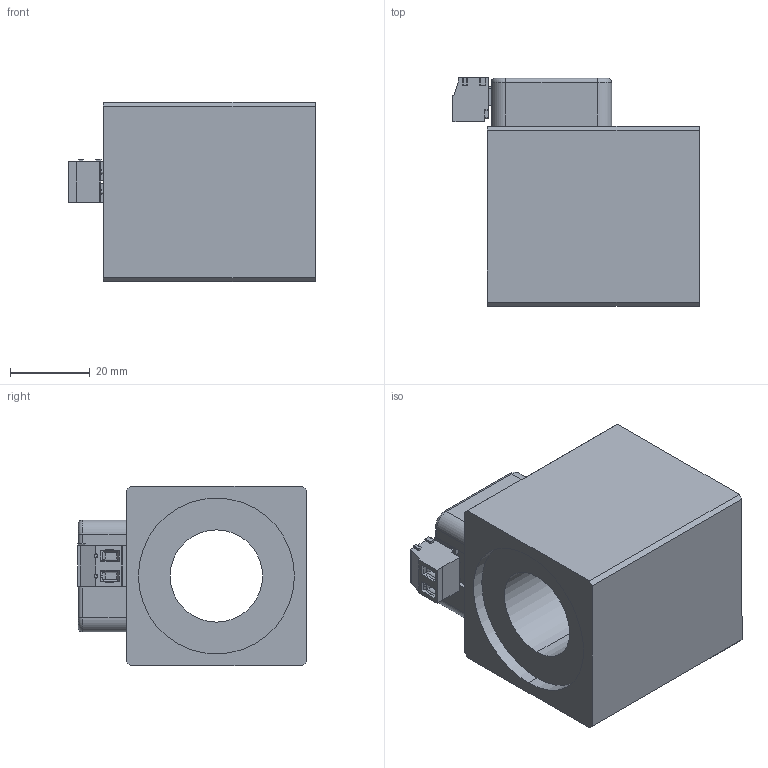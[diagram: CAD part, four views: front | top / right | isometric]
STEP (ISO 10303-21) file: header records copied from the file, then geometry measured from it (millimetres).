
FILE_DESCRIPTION (( 'STEP AP214' ), '1' );
FILE_NAME ('MXS45_23x50-M222a.STEP', '2015-07-17T06:02:36', ( '' ), ( '' ), 'SwSTEP 2.0', 'SolidWorks 2014', '' );
FILE_SCHEMA (( 'AUTOMOTIVE_DESIGN' ));
Length unit declared in the file: millimetre
Products named in the file (2): MXS45_23x50-M222a
Bounding box: 61.7 x 57.2 x 45 mm (x, y, z)
Volume: 92156.4 mm3; surface area: 20584.8 mm2
Topology: 1 solids, 3 shells, 490 faces, 1324 edges, 845 vertices
Faces by surface type: plane 247, cylinder 193, bspline 24, cone 14, torus 12
Entity records: 21479 total; most frequent: CARTESIAN_POINT 4093, ORIENTED_EDGE 2632, DIRECTION 2364, EDGE_CURVE 1316, LINE 856, VECTOR 856, VERTEX_POINT 845, AXIS2_PLACEMENT_3D 754
